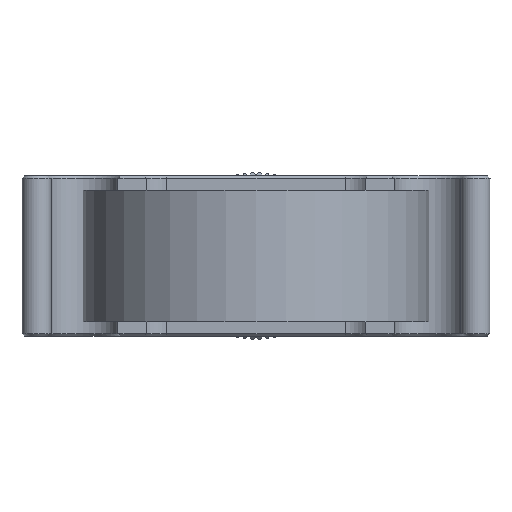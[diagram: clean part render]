
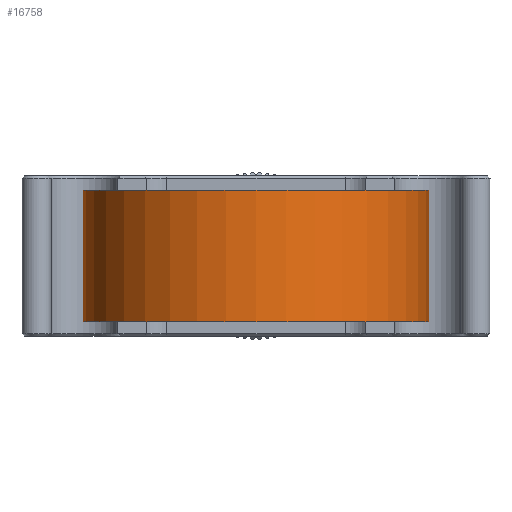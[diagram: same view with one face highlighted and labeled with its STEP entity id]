
A CAD part, front view. The second image highlights one B-rep face of the part: STEP entity #16758.
In plain terms, the highlighted cylindrical face has radius 15 mm (diameter 30 mm), a partial arc.
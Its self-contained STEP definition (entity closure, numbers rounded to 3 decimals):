
#13010=CARTESIAN_POINT('',(0.,0.,-5.715));
#13011=DIRECTION('',(0.,0.,-1.));
#13012=DIRECTION('',(1.,0.,0.));
#13013=AXIS2_PLACEMENT_3D('',#13010,#13011,#13012);
#13061=CARTESIAN_POINT('',(0.,0.,5.715));
#13062=DIRECTION('',(0.,0.,1.));
#13063=DIRECTION('',(-1.,0.,0.));
#13064=AXIS2_PLACEMENT_3D('',#13061,#13062,#13063);
#13094=DIRECTION('',(0.,0.,1.));
#13095=VECTOR('',#13094,11.43);
#13096=CARTESIAN_POINT('',(15.,0.,-5.715));
#13097=LINE('',#13096,#13095);
#13098=DIRECTION('',(0.,0.,1.));
#13099=VECTOR('',#13098,11.43);
#13100=CARTESIAN_POINT('',(-15.,0.,-5.715));
#13101=LINE('',#13100,#13099);
#16388=CARTESIAN_POINT('',(-15.,0.,-5.715));
#16389=CARTESIAN_POINT('',(-15.,0.,5.715));
#16390=VERTEX_POINT('',#16388);
#16391=VERTEX_POINT('',#16389);
#16416=CARTESIAN_POINT('',(15.,0.,-5.715));
#16417=VERTEX_POINT('',#16416);
#16418=CARTESIAN_POINT('',(15.,0.,5.715));
#16419=VERTEX_POINT('',#16418);
#16746=CARTESIAN_POINT('',(0.,0.,5.715));
#16747=DIRECTION('',(0.,0.,-1.));
#16748=DIRECTION('',(-1.,0.,0.));
#16749=AXIS2_PLACEMENT_3D('',#16746,#16747,#16748);
#16750=CYLINDRICAL_SURFACE('',#16749,15.);
#16751=ORIENTED_EDGE('',*,*,#16741,.F.);
#16752=ORIENTED_EDGE('',*,*,#16663,.T.);
#16754=ORIENTED_EDGE('',*,*,#16753,.T.);
#16755=ORIENTED_EDGE('',*,*,#16703,.T.);
#16756=EDGE_LOOP('',(#16751,#16752,#16754,#16755));
#16757=FACE_OUTER_BOUND('',#16756,.F.);
#16758=ADVANCED_FACE('',(#16757),#16750,.T.);
#13014=CIRCLE('',#13013,15.);
#13065=CIRCLE('',#13064,15.);
#16663=EDGE_CURVE('',#16417,#16390,#13014,.T.);
#16703=EDGE_CURVE('',#16391,#16419,#13065,.T.);
#16741=EDGE_CURVE('',#16417,#16419,#13097,.T.);
#16753=EDGE_CURVE('',#16390,#16391,#13101,.T.);
